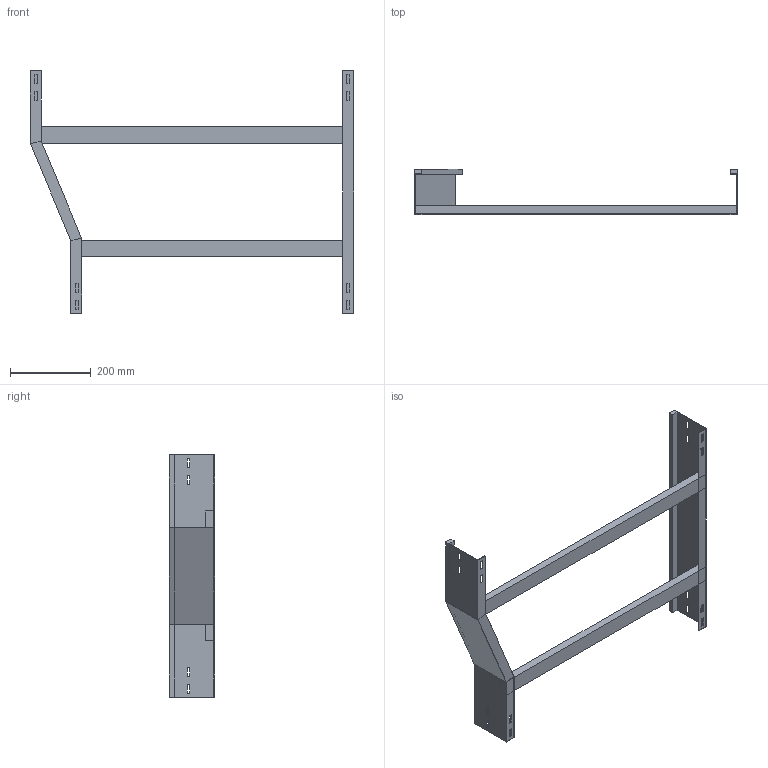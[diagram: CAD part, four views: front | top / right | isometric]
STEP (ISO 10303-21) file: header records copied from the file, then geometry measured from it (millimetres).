
FILE_DESCRIPTION (( 'STEP AP214' ), '1' );
FILE_NAME ('B2X21B7J800XX.step', '2025-09-02T17:17:56', ( '' ), ( '' ), 'SwSTEP 2.0', 'SolidWorks 2023', '' );
FILE_SCHEMA (( 'AUTOMOTIVE_DESIGN' ));
Length unit declared in the file: millimetre
Products named in the file (5): SPONDA RID. DX 800-700_H112.5; TRAVERSINO_800; SPONDA DRITTA_H112.5; TRAVERSINO_700; B2X21B7J800XX
Assembly tree (4 placements, depth 2):
  B2X21B7J800XX
    SPONDA RID. DX 800-700_H112.5
    TRAVERSINO_700
    TRAVERSINO_800
    SPONDA DRITTA_H112.5
Bounding box: 800 x 112.5 x 600 mm (x, y, z)
Volume: 1773332 mm3; surface area: 561988 mm2
Topology: 4 solids, 4 shells, 112 faces, 296 edges, 192 vertices
Faces by surface type: plane 112
Entity records: 3590 total; most frequent: CARTESIAN_POINT 607, ORIENTED_EDGE 592, DIRECTION 534, LINE 296, EDGE_CURVE 296, VECTOR 296, VERTEX_POINT 192, EDGE_LOOP 144
